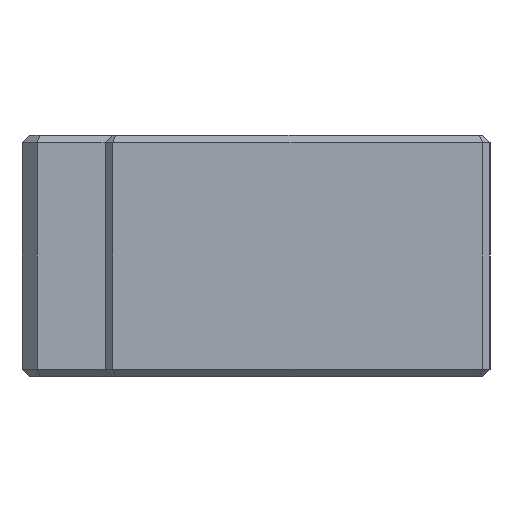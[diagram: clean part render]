
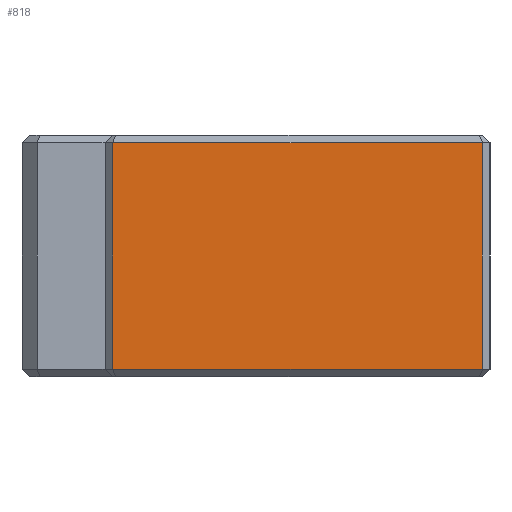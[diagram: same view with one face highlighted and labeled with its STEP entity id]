
A CAD part, left-side view. The second image highlights one B-rep face of the part: STEP entity #818.
In plain terms, the highlighted planar face has unit normal (-1, 0, 0).
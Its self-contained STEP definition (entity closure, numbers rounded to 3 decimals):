
#402 = CARTESIAN_POINT ( 'NONE',  ( 0., 25., 15.5 ) ) ;
#403 = DIRECTION ( 'NONE',  ( 0., 0., -1. ) ) ;
#404 = VECTOR ( 'NONE', #403, 1000. ) ;
#405 = CARTESIAN_POINT ( 'NONE',  ( 0., 25., 16. ) ) ;
#406 = LINE ( 'NONE', #405, #404 ) ;
#460 = DIRECTION ( 'NONE',  ( 0., 0., -1. ) ) ;
#461 = DIRECTION ( 'NONE',  ( 1., 0., 0. ) ) ;
#462 = AXIS2_PLACEMENT_3D ( 'NONE', #463, #461, #460 ) ;
#463 = CARTESIAN_POINT ( 'NONE',  ( 0., 0., 16. ) ) ;
#464 = PLANE ( 'NONE',  #462 ) ;
#465 = FACE_OUTER_BOUND ( 'NONE', #815, .T. ) ;
#785 = EDGE_CURVE ( 'NONE', #786, #846, #406, .T. ) ;
#786 = VERTEX_POINT ( 'NONE', #402 ) ;
#815 = EDGE_LOOP ( 'NONE', ( #816, #847, #857, #860 ) ) ;
#816 = ORIENTED_EDGE ( 'NONE', *, *, #785, .T. ) ;
#818 = ADVANCED_FACE ( 'NONE', ( #465 ), #464, .F. ) ;
#846 = VERTEX_POINT ( 'NONE', #2040 ) ;
#847 = ORIENTED_EDGE ( 'NONE', *, *, #855, .T. ) ;
#855 = EDGE_CURVE ( 'NONE', #846, #856, #1992, .T. ) ;
#856 = VERTEX_POINT ( 'NONE', #2063 ) ;
#857 = ORIENTED_EDGE ( 'NONE', *, *, #858, .T. ) ;
#858 = EDGE_CURVE ( 'NONE', #856, #859, #2014, .T. ) ;
#859 = VERTEX_POINT ( 'NONE', #2010 ) ;
#860 = ORIENTED_EDGE ( 'NONE', *, *, #861, .T. ) ;
#861 = EDGE_CURVE ( 'NONE', #859, #786, #2009, .T. ) ;
#1992 = LINE ( 'NONE', #2066, #2065 ) ;
#2009 = LINE ( 'NONE', #2025, #2024 ) ;
#2010 = CARTESIAN_POINT ( 'NONE',  ( 0., 0.5, 15.5 ) ) ;
#2011 = DIRECTION ( 'NONE',  ( 0., 0., 1. ) ) ;
#2012 = VECTOR ( 'NONE', #2011, 1000. ) ;
#2013 = CARTESIAN_POINT ( 'NONE',  ( 0., 0.5, 16. ) ) ;
#2014 = LINE ( 'NONE', #2013, #2012 ) ;
#2023 = DIRECTION ( 'NONE',  ( 0., 1., 0. ) ) ;
#2024 = VECTOR ( 'NONE', #2023, 1000. ) ;
#2025 = CARTESIAN_POINT ( 'NONE',  ( 0., 0., 15.5 ) ) ;
#2040 = CARTESIAN_POINT ( 'NONE',  ( 0., 25., 0.5 ) ) ;
#2063 = CARTESIAN_POINT ( 'NONE',  ( 0., 0.5, 0.5 ) ) ;
#2064 = DIRECTION ( 'NONE',  ( 0., -1., 0. ) ) ;
#2065 = VECTOR ( 'NONE', #2064, 1000. ) ;
#2066 = CARTESIAN_POINT ( 'NONE',  ( 0., 0.5, 0.5 ) ) ;
